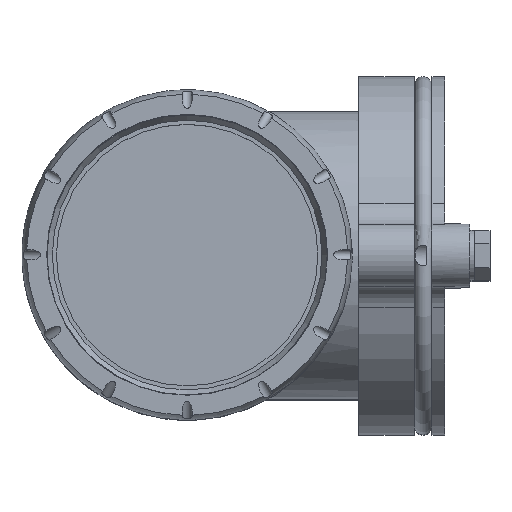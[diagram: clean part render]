
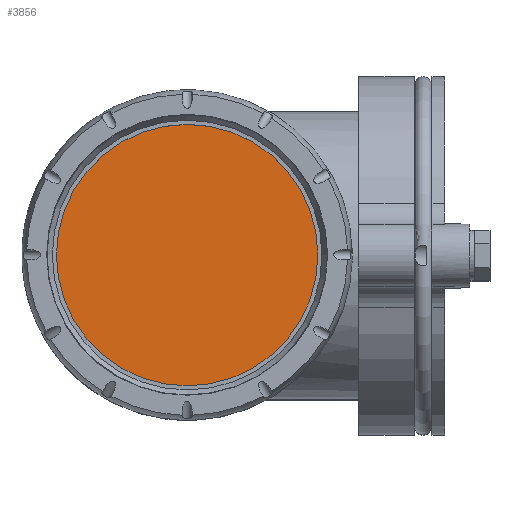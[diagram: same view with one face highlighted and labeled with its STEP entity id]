
A CAD part, top view. The second image highlights one B-rep face of the part: STEP entity #3856.
In plain terms, the highlighted planar face has unit normal (0, 0, 1).
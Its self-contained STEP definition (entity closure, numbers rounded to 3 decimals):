
#897=FACE_OUTER_BOUND('',#1130,.T.);
#1130=EDGE_LOOP('',(#2887));
#1405=CIRCLE('',#4193,55.2);
#1661=VERTEX_POINT('',#6013);
#2116=EDGE_CURVE('',#1661,#1661,#1405,.T.);
#2887=ORIENTED_EDGE('',*,*,#2116,.T.);
#3496=PLANE('',#4192);
#3856=ADVANCED_FACE('',(#897),#3496,.T.);
#4192=AXIS2_PLACEMENT_3D('',#6012,#4921,#4922);
#4193=AXIS2_PLACEMENT_3D('',#6014,#4923,#4924);
#4921=DIRECTION('center_axis',(0.,0.,1.));
#4922=DIRECTION('ref_axis',(1.,0.,0.));
#4923=DIRECTION('center_axis',(0.,0.,1.));
#4924=DIRECTION('ref_axis',(1.,0.,0.));
#6012=CARTESIAN_POINT('Origin',(0.,0.,200.));
#6013=CARTESIAN_POINT('',(55.2,0.,200.));
#6014=CARTESIAN_POINT('Origin',(0.,0.,200.));
